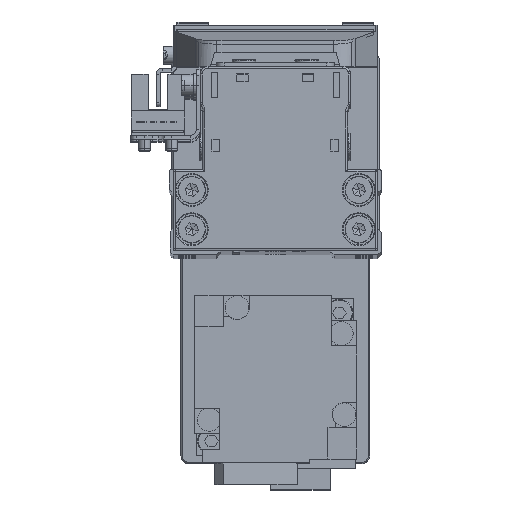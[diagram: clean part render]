
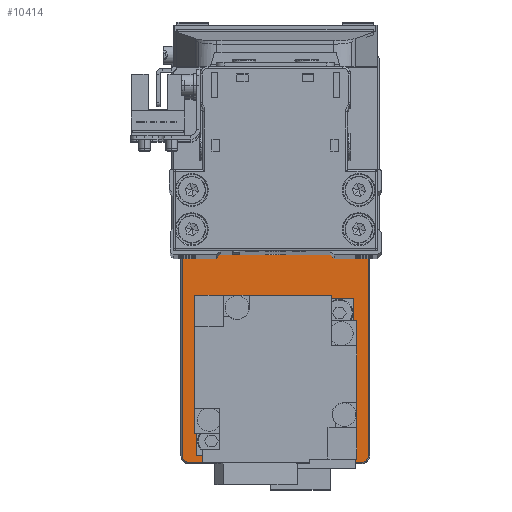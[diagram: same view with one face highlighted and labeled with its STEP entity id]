
A CAD part, top view. The second image highlights one B-rep face of the part: STEP entity #10414.
In plain terms, the highlighted planar face has unit normal (0, 0, 1).
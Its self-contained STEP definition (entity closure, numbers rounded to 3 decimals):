
#80 = EDGE_CURVE ( 'NONE', #3396, #1974, #20610, .T. ) ;
#224 = CARTESIAN_POINT ( 'NONE',  ( -51.7, -22., 5. ) ) ;
#1117 = FACE_BOUND ( 'NONE', #17536, .T. ) ;
#1280 = CARTESIAN_POINT ( 'NONE',  ( -50., -22., 5. ) ) ;
#1608 = AXIS2_PLACEMENT_3D ( 'NONE', #1280, #13603, #25940 ) ;
#1974 = VERTEX_POINT ( 'NONE', #34922 ) ;
#3365 = VERTEX_POINT ( 'NONE', #39584 ) ;
#3396 = VERTEX_POINT ( 'NONE', #27383 ) ;
#3752 = CIRCLE ( 'NONE', #26372, 12.8 ) ;
#3754 = VERTEX_POINT ( 'NONE', #4891 ) ;
#4143 = EDGE_LOOP ( 'NONE', ( #16511, #11827 ) ) ;
#4681 = DIRECTION ( 'NONE',  ( 0., 0., -1. ) ) ;
#4891 = CARTESIAN_POINT ( 'NONE',  ( -50., 23.7, 5. ) ) ;
#5040 = VECTOR ( 'NONE', #12562, 1000. ) ;
#5109 = CARTESIAN_POINT ( 'NONE',  ( -51.7, -22., 5. ) ) ;
#5211 = DIRECTION ( 'NONE',  ( 1., 0., 0. ) ) ;
#5237 = DIRECTION ( 'NONE',  ( 0., 1., 0. ) ) ;
#5806 = DIRECTION ( 'NONE',  ( 1., 0., 0. ) ) ;
#6039 = EDGE_CURVE ( 'NONE', #22113, #17298, #3752, .T. ) ;
#7226 = VERTEX_POINT ( 'NONE', #24580 ) ;
#7680 = CARTESIAN_POINT ( 'NONE',  ( -50., 23.7, 5. ) ) ;
#8809 = ORIENTED_EDGE ( 'NONE', *, *, #9755, .T. ) ;
#9055 = DIRECTION ( 'NONE',  ( 0., 0., -1. ) ) ;
#9222 = EDGE_CURVE ( 'NONE', #11764, #7226, #26313, .T. ) ;
#9755 = EDGE_CURVE ( 'NONE', #1974, #35872, #16700, .T. ) ;
#10042 = VECTOR ( 'NONE', #20009, 1000. ) ;
#10178 = CARTESIAN_POINT ( 'NONE',  ( 30., 0., 5. ) ) ;
#10413 = CARTESIAN_POINT ( 'NONE',  ( 0., 0., 5. ) ) ;
#10414 = ADVANCED_FACE ( 'NONE', ( #1117, #13454, #25792 ), #38179, .T. ) ;
#10733 = CARTESIAN_POINT ( 'NONE',  ( -28., 0., 5. ) ) ;
#10941 = DIRECTION ( 'NONE',  ( 1., 0., 0. ) ) ;
#11472 = DIRECTION ( 'NONE',  ( 1., 0., 0. ) ) ;
#11764 = VERTEX_POINT ( 'NONE', #23390 ) ;
#11827 = ORIENTED_EDGE ( 'NONE', *, *, #18892, .T. ) ;
#12475 = ORIENTED_EDGE ( 'NONE', *, *, #13160, .T. ) ;
#12562 = DIRECTION ( 'NONE',  ( 0., -1., 0. ) ) ;
#12603 = CIRCLE ( 'NONE', #35240, 12.8 ) ;
#13041 = EDGE_CURVE ( 'NONE', #3754, #3365, #32976, .T. ) ;
#13160 = EDGE_CURVE ( 'NONE', #7226, #3396, #31048, .T. ) ;
#13454 = FACE_BOUND ( 'NONE', #4143, .T. ) ;
#13603 = DIRECTION ( 'NONE',  ( 0., 0., 1. ) ) ;
#13878 = CIRCLE ( 'NONE', #36532, 10.3 ) ;
#14399 = ORIENTED_EDGE ( 'NONE', *, *, #9222, .T. ) ;
#15081 = ORIENTED_EDGE ( 'NONE', *, *, #13041, .T. ) ;
#15523 = AXIS2_PLACEMENT_3D ( 'NONE', #26834, #39230, #11472 ) ;
#15892 = EDGE_CURVE ( 'NONE', #27387, #19180, #13878, .T. ) ;
#16511 = ORIENTED_EDGE ( 'NONE', *, *, #15892, .T. ) ;
#16700 = CIRCLE ( 'NONE', #39371, 1.7 ) ;
#16741 = ORIENTED_EDGE ( 'NONE', *, *, #30219, .T. ) ;
#17025 = DIRECTION ( 'NONE',  ( 1., 0., 0. ) ) ;
#17298 = VERTEX_POINT ( 'NONE', #38945 ) ;
#17310 = ORIENTED_EDGE ( 'NONE', *, *, #35013, .T. ) ;
#17536 = EDGE_LOOP ( 'NONE', ( #20750, #17310 ) ) ;
#17563 = ORIENTED_EDGE ( 'NONE', *, *, #29724, .T. ) ;
#17785 = CARTESIAN_POINT ( 'NONE',  ( 42.8, 0., 5. ) ) ;
#18892 = EDGE_CURVE ( 'NONE', #19180, #27387, #37378, .T. ) ;
#19028 = CIRCLE ( 'NONE', #1608, 1.7 ) ;
#19145 = EDGE_CURVE ( 'NONE', #3365, #39124, #27934, .T. ) ;
#19180 = VERTEX_POINT ( 'NONE', #37480 ) ;
#19662 = EDGE_LOOP ( 'NONE', ( #14399, #12475, #35332, #8809, #16741, #15081, #31290, #17563 ) ) ;
#19886 = AXIS2_PLACEMENT_3D ( 'NONE', #32424, #4681, #17025 ) ;
#20009 = DIRECTION ( 'NONE',  ( -1., 0., 0. ) ) ;
#20587 = CARTESIAN_POINT ( 'NONE',  ( 50., 22., 5. ) ) ;
#20610 = LINE ( 'NONE', #32984, #30730 ) ;
#20750 = ORIENTED_EDGE ( 'NONE', *, *, #6039, .T. ) ;
#21170 = CARTESIAN_POINT ( 'NONE',  ( 50., -22., 5. ) ) ;
#21380 = DIRECTION ( 'NONE',  ( 1., 0., 0. ) ) ;
#22113 = VERTEX_POINT ( 'NONE', #17785 ) ;
#22507 = DIRECTION ( 'NONE',  ( 0., 0., -1. ) ) ;
#22740 = DIRECTION ( 'NONE',  ( 0., 0., 1. ) ) ;
#23069 = DIRECTION ( 'NONE',  ( 0., 0., -1. ) ) ;
#23390 = CARTESIAN_POINT ( 'NONE',  ( -50., -23.7, 5. ) ) ;
#24580 = CARTESIAN_POINT ( 'NONE',  ( 50., -23.7, 5. ) ) ;
#25792 = FACE_OUTER_BOUND ( 'NONE', #19662, .T. ) ;
#25940 = DIRECTION ( 'NONE',  ( 1., 0., 0. ) ) ;
#26313 = LINE ( 'NONE', #38701, #32840 ) ;
#26372 = AXIS2_PLACEMENT_3D ( 'NONE', #10178, #22507, #34884 ) ;
#26834 = CARTESIAN_POINT ( 'NONE',  ( -50., 22., 5. ) ) ;
#27383 = CARTESIAN_POINT ( 'NONE',  ( 51.7, -22., 5. ) ) ;
#27387 = VERTEX_POINT ( 'NONE', #30376 ) ;
#27934 = LINE ( 'NONE', #224, #5040 ) ;
#27954 = CARTESIAN_POINT ( 'NONE',  ( 50., 23.7, 5. ) ) ;
#28379 = AXIS2_PLACEMENT_3D ( 'NONE', #10413, #22740, #35112 ) ;
#29724 = EDGE_CURVE ( 'NONE', #39124, #11764, #19028, .T. ) ;
#30219 = EDGE_CURVE ( 'NONE', #35872, #3754, #35421, .T. ) ;
#30376 = CARTESIAN_POINT ( 'NONE',  ( -17.7, 0., 5. ) ) ;
#30730 = VECTOR ( 'NONE', #5237, 1000. ) ;
#31048 = CIRCLE ( 'NONE', #36225, 1.7 ) ;
#31290 = ORIENTED_EDGE ( 'NONE', *, *, #19145, .T. ) ;
#32424 = CARTESIAN_POINT ( 'NONE',  ( -28., 0., 5. ) ) ;
#32840 = VECTOR ( 'NONE', #10941, 1000. ) ;
#32960 = DIRECTION ( 'NONE',  ( 0., 0., 1. ) ) ;
#32976 = CIRCLE ( 'NONE', #15523, 1.7 ) ;
#32984 = CARTESIAN_POINT ( 'NONE',  ( 51.7, 22., 5. ) ) ;
#33541 = DIRECTION ( 'NONE',  ( 0., 0., 1. ) ) ;
#34884 = DIRECTION ( 'NONE',  ( 1., 0., 0. ) ) ;
#34922 = CARTESIAN_POINT ( 'NONE',  ( 51.7, 22., 5. ) ) ;
#35013 = EDGE_CURVE ( 'NONE', #17298, #22113, #12603, .T. ) ;
#35112 = DIRECTION ( 'NONE',  ( 1., 0., 0. ) ) ;
#35240 = AXIS2_PLACEMENT_3D ( 'NONE', #36804, #9055, #21380 ) ;
#35332 = ORIENTED_EDGE ( 'NONE', *, *, #80, .T. ) ;
#35421 = LINE ( 'NONE', #7680, #10042 ) ;
#35443 = DIRECTION ( 'NONE',  ( 1., 0., 0. ) ) ;
#35872 = VERTEX_POINT ( 'NONE', #27954 ) ;
#36225 = AXIS2_PLACEMENT_3D ( 'NONE', #21170, #33541, #5806 ) ;
#36532 = AXIS2_PLACEMENT_3D ( 'NONE', #10733, #23069, #35443 ) ;
#36804 = CARTESIAN_POINT ( 'NONE',  ( 30., 0., 5. ) ) ;
#37378 = CIRCLE ( 'NONE', #19886, 10.3 ) ;
#37480 = CARTESIAN_POINT ( 'NONE',  ( -38.3, 0., 5. ) ) ;
#38179 = PLANE ( 'NONE',  #28379 ) ;
#38701 = CARTESIAN_POINT ( 'NONE',  ( 50., -23.7, 5. ) ) ;
#38945 = CARTESIAN_POINT ( 'NONE',  ( 17.2, 0., 5. ) ) ;
#39124 = VERTEX_POINT ( 'NONE', #5109 ) ;
#39230 = DIRECTION ( 'NONE',  ( 0., 0., 1. ) ) ;
#39371 = AXIS2_PLACEMENT_3D ( 'NONE', #20587, #32960, #5211 ) ;
#39584 = CARTESIAN_POINT ( 'NONE',  ( -51.7, 22., 5. ) ) ;
